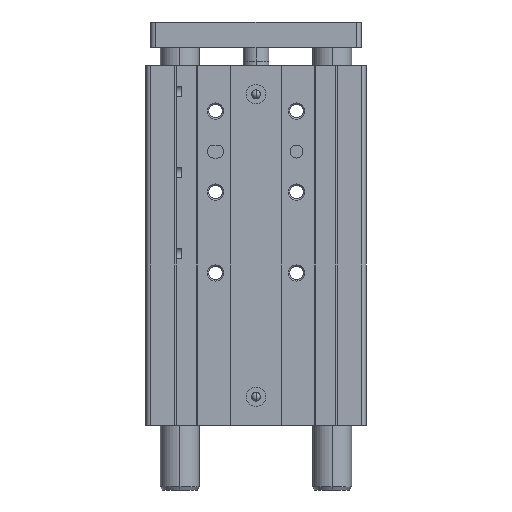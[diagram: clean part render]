
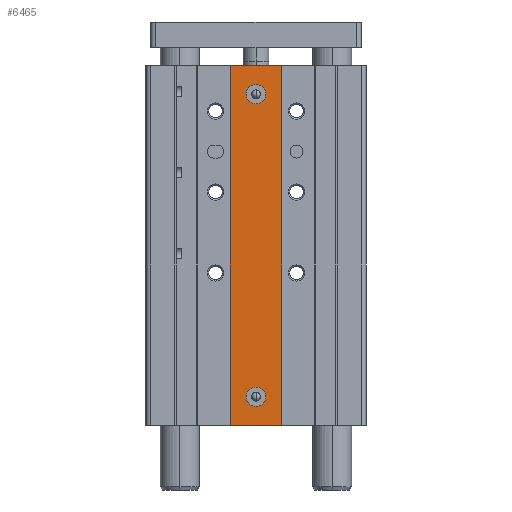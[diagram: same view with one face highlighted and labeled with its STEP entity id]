
A CAD part, front view. The second image highlights one B-rep face of the part: STEP entity #6465.
In plain terms, the highlighted planar face has unit normal (0, -1, 0).
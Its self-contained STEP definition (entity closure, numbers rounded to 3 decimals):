
#169=DIRECTION('',(-1.,0.,0.));
#170=VECTOR('',#169,16.);
#171=CARTESIAN_POINT('',(8.,-14.,0.));
#172=LINE('',#171,#170);
#519=DIRECTION('',(-1.,0.,0.));
#520=VECTOR('',#519,16.);
#521=CARTESIAN_POINT('',(8.,-14.,-111.));
#522=LINE('',#521,#520);
#1995=DIRECTION('',(0.,0.,-1.));
#1996=VECTOR('',#1995,111.);
#1997=CARTESIAN_POINT('',(-8.,-14.,0.));
#1998=LINE('',#1997,#1996);
#1999=DIRECTION('',(0.,0.,-1.));
#2000=VECTOR('',#1999,111.);
#2001=CARTESIAN_POINT('',(8.,-14.,0.));
#2002=LINE('',#2001,#2000);
#2003=CARTESIAN_POINT('',(0.,-14.,-8.8));
#2004=DIRECTION('',(0.,-1.,0.));
#2005=DIRECTION('',(1.,0.,0.));
#2006=AXIS2_PLACEMENT_3D('',#2003,#2004,#2005);
#2008=CARTESIAN_POINT('',(0.,-14.,-8.8));
#2009=DIRECTION('',(0.,-1.,0.));
#2010=DIRECTION('',(-1.,0.,0.));
#2011=AXIS2_PLACEMENT_3D('',#2008,#2009,#2010);
#2013=CARTESIAN_POINT('',(0.,-14.,-102.2));
#2014=DIRECTION('',(0.,-1.,0.));
#2015=DIRECTION('',(1.,0.,0.));
#2016=AXIS2_PLACEMENT_3D('',#2013,#2014,#2015);
#2018=CARTESIAN_POINT('',(0.,-14.,-102.2));
#2019=DIRECTION('',(0.,-1.,0.));
#2020=DIRECTION('',(-1.,0.,0.));
#2021=AXIS2_PLACEMENT_3D('',#2018,#2019,#2020);
#3540=CARTESIAN_POINT('',(8.,-14.,0.));
#3542=VERTEX_POINT('',#3540);
#3543=CARTESIAN_POINT('',(-8.,-14.,0.));
#3544=VERTEX_POINT('',#3543);
#3584=CARTESIAN_POINT('',(8.,-14.,-111.));
#3586=VERTEX_POINT('',#3584);
#3587=CARTESIAN_POINT('',(-8.,-14.,-111.));
#3588=VERTEX_POINT('',#3587);
#3735=CARTESIAN_POINT('',(3.,-14.,-8.8));
#3736=CARTESIAN_POINT('',(-3.,-14.,-8.8));
#3737=VERTEX_POINT('',#3735);
#3738=VERTEX_POINT('',#3736);
#3739=CARTESIAN_POINT('',(3.,-14.,-102.2));
#3740=CARTESIAN_POINT('',(-3.,-14.,-102.2));
#3741=VERTEX_POINT('',#3739);
#3742=VERTEX_POINT('',#3740);
#6441=CARTESIAN_POINT('',(8.,-14.,0.));
#6442=DIRECTION('',(0.,-1.,0.));
#6443=DIRECTION('',(-1.,0.,0.));
#6444=AXIS2_PLACEMENT_3D('',#6441,#6442,#6443);
#6445=PLANE('',#6444);
#6446=ORIENTED_EDGE('',*,*,#4467,.F.);
#6448=ORIENTED_EDGE('',*,*,#6447,.T.);
#6449=ORIENTED_EDGE('',*,*,#4784,.T.);
#6450=ORIENTED_EDGE('',*,*,#6434,.F.);
#6451=EDGE_LOOP('',(#6446,#6448,#6449,#6450));
#6452=FACE_OUTER_BOUND('',#6451,.F.);
#6454=ORIENTED_EDGE('',*,*,#6453,.T.);
#6456=ORIENTED_EDGE('',*,*,#6455,.T.);
#6457=EDGE_LOOP('',(#6454,#6456));
#6458=FACE_BOUND('',#6457,.F.);
#6460=ORIENTED_EDGE('',*,*,#6459,.T.);
#6462=ORIENTED_EDGE('',*,*,#6461,.T.);
#6463=EDGE_LOOP('',(#6460,#6462));
#6464=FACE_BOUND('',#6463,.F.);
#6465=ADVANCED_FACE('',(#6452,#6458,#6464),#6445,.T.);
#2007=CIRCLE('',#2006,3.);
#2012=CIRCLE('',#2011,3.);
#2017=CIRCLE('',#2016,3.);
#2022=CIRCLE('',#2021,3.);
#4467=EDGE_CURVE('',#3542,#3544,#172,.T.);
#4784=EDGE_CURVE('',#3586,#3588,#522,.T.);
#6434=EDGE_CURVE('',#3544,#3588,#1998,.T.);
#6447=EDGE_CURVE('',#3542,#3586,#2002,.T.);
#6453=EDGE_CURVE('',#3737,#3738,#2007,.T.);
#6455=EDGE_CURVE('',#3738,#3737,#2012,.T.);
#6459=EDGE_CURVE('',#3741,#3742,#2017,.T.);
#6461=EDGE_CURVE('',#3742,#3741,#2022,.T.);
